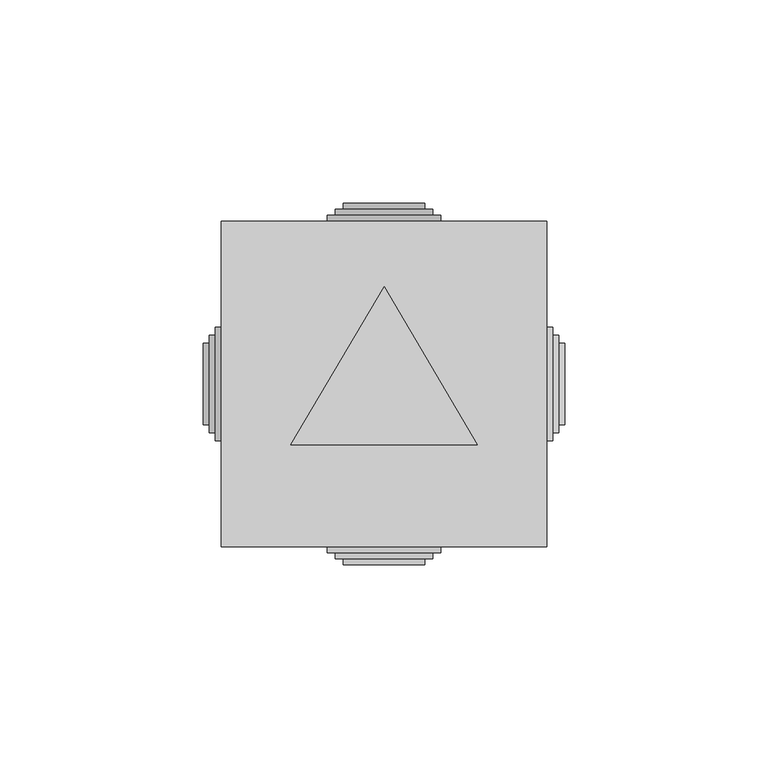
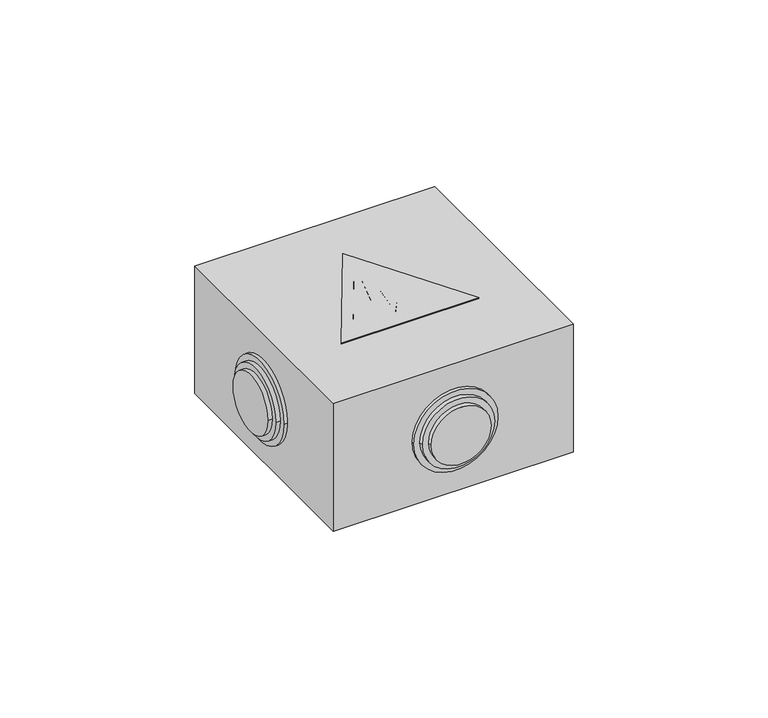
"""IFC4 building model written with IfcOpenShell, lengths in millimetres: proxy geometry, mS_EE_НГ_транзит : КО_IP44_ОУ_КУП_6Вв."""

from ifc_helpers import new_model, si_unit, point, frame, frame_2d, origin, place, context, project, spatial, polyline, circle_curve, trimmed, segment, composite_curve, outline, extrude, source, transform, mapped, element, save


def electrical_equipment_8a72ac11(model_context):
    return source(origin(), model_context, "Body", "SweptSolid", [
        extrude(outline(polyline([(22.9265636, 14.989949), (-0.0285229, -23.8986682), (-22.9836095, 14.989949), (22.9265636, 14.989949)])), frame((0.0, 0.0, -45.2), z_axis=(0.0, 0.0, 1.0), x_axis=(1.0, 0.0, 0.0)), (0.0, 0.0, 1.0), 0.4),
        extrude(outline(polyline([(1.8044962, -10.5250696), (-1.4955038, -10.5250696), (2.2791111, -1.8071408), (-2.9170414, -4.8071408), (-0.0182681, 6.0112285), (-1.4276319, 5.0606005), (1.4242519, 9.2886922), (2.2577631, 4.5616149), (1.2293029, 5.7872861), (0.2337885, -1.7674533), (4.9514137, 0.8475691), (1.8044962, -10.5250696)])), frame((0.0, 0.0, -45.4), z_axis=(0.0, 0.0, 1.0), x_axis=(1.0, 0.0, 0.0)), (0.0, 0.0, 1.0), 0.8),
        extrude(outline(polyline([(-21.2035905, 13.989949), (21.2035905, 13.989949), (0.0, -21.9314278), (-21.2035905, 13.989949)]), holes=[polyline([(0.0, -17.210051), (17.0, 11.589949), (-17.0, 11.589949), (0.0, -17.210051)])]), frame((0.0, 0.0, -45.4), z_axis=(0.0, 0.0, 1.0), x_axis=(1.0, 0.0, 0.0)), (0.0, 0.0, 1.0), 0.8),
        extrude(outline(polyline([(-22.9265636, -14.989949), (0.0285229, 23.8986682), (22.9836095, -14.989949), (-22.9265636, -14.989949)])), frame((0.0, 0.0, -0.2), z_axis=(0.0, 0.0, 1.0), x_axis=(1.0, 0.0, 0.0)), (0.0, 0.0, 1.0), 0.4),
        extrude(outline(polyline([(-1.8044962, 10.5250696), (1.4955038, 10.5250696), (-2.2791111, 1.8071408), (2.9170414, 4.8071408), (0.0182681, -6.0112285), (1.4276319, -5.0606005), (-1.4242519, -9.2886922), (-2.2577631, -4.5616149), (-1.2293029, -5.7872861), (-0.2337885, 1.7674533), (-4.9514137, -0.8475691), (-1.8044962, 10.5250696)])), frame((0.0, 0.0, -0.4), z_axis=(0.0, 0.0, 1.0), x_axis=(1.0, 0.0, 0.0)), (0.0, 0.0, 1.0), 0.8),
        extrude(outline(polyline([(21.2035905, -13.989949), (-21.2035905, -13.989949), (0.0, 21.9314278), (21.2035905, -13.989949)]), holes=[polyline([(0.0, 17.210051), (-17.0, -11.589949), (17.0, -11.589949), (0.0, 17.210051)])]), frame((0.0, 0.0, -0.4), z_axis=(0.0, 0.0, 1.0), x_axis=(1.0, 0.0, 0.0)), (0.0, 0.0, 1.0), 0.8),
        extrude(outline(polyline([(40.0, 40.0), (40.0, -40.0), (-40.0, -40.0), (-40.0, 40.0), (40.0, 40.0)])), frame((0.0, 0.0, -45.0), z_axis=(0.0, 0.0, 1.0), x_axis=(1.0, 0.0, 0.0)), (0.0, 0.0, 1.0), 45.0),
        extrude(outline(composite_curve([segment(trimmed(circle_curve(frame_2d((-22.5, 0.0)), 10.0), [point((-22.5, 10.0))], [point((-22.5, -10.0))], False, "CARTESIAN"), True, "CONTINUOUS"), segment(trimmed(circle_curve(frame_2d((-22.5, 0.0)), 10.0), [point((-22.5, -10.0))], [point((-22.5, 10.0))], False, "CARTESIAN"), True, "CONTINUOUS")], self_intersect=False)), frame((0.0, -44.5, 0.0), z_axis=(0.0, 1.0, 0.0), x_axis=(0.0, 0.0, 1.0)), (0.0, 0.0, 1.0), 1.5),
        extrude(outline(composite_curve([segment(trimmed(circle_curve(frame_2d((-22.5, 0.0)), 12.0), [point((-22.5, 12.0))], [point((-22.5, -12.0))], False, "CARTESIAN"), True, "CONTINUOUS"), segment(trimmed(circle_curve(frame_2d((-22.5, 0.0)), 12.0), [point((-22.5, -12.0))], [point((-22.5, 12.0))], False, "CARTESIAN"), True, "CONTINUOUS")], self_intersect=False)), frame((0.0, -43.0, 0.0), z_axis=(0.0, 1.0, 0.0), x_axis=(0.0, 0.0, 1.0)), (0.0, 0.0, 1.0), 1.5),
        extrude(outline(composite_curve([segment(trimmed(circle_curve(frame_2d((-22.5, 0.0)), 14.0), [point((-22.5, 14.0))], [point((-22.5, -14.0))], False, "CARTESIAN"), True, "CONTINUOUS"), segment(trimmed(circle_curve(frame_2d((-22.5, 0.0)), 14.0), [point((-22.5, -14.0))], [point((-22.5, 14.0))], False, "CARTESIAN"), True, "CONTINUOUS")], self_intersect=False)), frame((0.0, -41.5, 0.0), z_axis=(0.0, 1.0, 0.0), x_axis=(0.0, 0.0, 1.0)), (0.0, 0.0, 1.0), 1.5),
        extrude(outline(composite_curve([segment(trimmed(circle_curve(frame_2d((0.0, -22.5)), 10.0), [point((-10.0, -22.5))], [point((10.0, -22.5))], False, "CARTESIAN"), True, "CONTINUOUS"), segment(trimmed(circle_curve(frame_2d((0.0, -22.5)), 10.0), [point((10.0, -22.5))], [point((-10.0, -22.5))], False, "CARTESIAN"), True, "CONTINUOUS")], self_intersect=False)), frame((-44.5, 0.0, 0.0), z_axis=(1.0, 0.0, 0.0), x_axis=(0.0, 1.0, 0.0)), (0.0, 0.0, 1.0), 1.5),
        extrude(outline(composite_curve([segment(trimmed(circle_curve(frame_2d((0.0, -22.5)), 12.0), [point((-12.0, -22.5))], [point((12.0, -22.5))], False, "CARTESIAN"), True, "CONTINUOUS"), segment(trimmed(circle_curve(frame_2d((0.0, -22.5)), 12.0), [point((12.0, -22.5))], [point((-12.0, -22.5))], False, "CARTESIAN"), True, "CONTINUOUS")], self_intersect=False)), frame((-43.0, 0.0, 0.0), z_axis=(1.0, 0.0, 0.0), x_axis=(0.0, 1.0, 0.0)), (0.0, 0.0, 1.0), 1.5),
        extrude(outline(composite_curve([segment(trimmed(circle_curve(frame_2d((0.0, -22.5)), 14.0), [point((-14.0, -22.5))], [point((14.0, -22.5))], False, "CARTESIAN"), True, "CONTINUOUS"), segment(trimmed(circle_curve(frame_2d((0.0, -22.5)), 14.0), [point((14.0, -22.5))], [point((-14.0, -22.5))], False, "CARTESIAN"), True, "CONTINUOUS")], self_intersect=False)), frame((-41.5, 0.0, 0.0), z_axis=(1.0, 0.0, 0.0), x_axis=(0.0, 1.0, 0.0)), (0.0, 0.0, 1.0), 1.5),
        extrude(outline(composite_curve([segment(trimmed(circle_curve(frame_2d((-25.0, 0.0)), 10.0), [point((-25.0, -10.0))], [point((-25.0, 10.0))], False, "CARTESIAN"), True, "CONTINUOUS"), segment(trimmed(circle_curve(frame_2d((-25.0, 0.0)), 10.0), [point((-25.0, 10.0))], [point((-25.0, -10.0))], False, "CARTESIAN"), True, "CONTINUOUS")], self_intersect=False)), frame((0.0, 43.0, 0.0), z_axis=(0.0, 1.0, 0.0), x_axis=(0.0, 0.0, 1.0)), (0.0, 0.0, 1.0), 1.5),
        extrude(outline(composite_curve([segment(trimmed(circle_curve(frame_2d((-25.0, 0.0)), 12.0), [point((-25.0, -12.0))], [point((-25.0, 12.0))], False, "CARTESIAN"), True, "CONTINUOUS"), segment(trimmed(circle_curve(frame_2d((-25.0, 0.0)), 12.0), [point((-25.0, 12.0))], [point((-25.0, -12.0))], False, "CARTESIAN"), True, "CONTINUOUS")], self_intersect=False)), frame((0.0, 41.5, 0.0), z_axis=(0.0, 1.0, 0.0), x_axis=(0.0, 0.0, 1.0)), (0.0, 0.0, 1.0), 1.5),
        extrude(outline(composite_curve([segment(trimmed(circle_curve(frame_2d((-25.0, 0.0)), 14.0), [point((-25.0, -14.0))], [point((-25.0, 14.0))], False, "CARTESIAN"), True, "CONTINUOUS"), segment(trimmed(circle_curve(frame_2d((-25.0, 0.0)), 14.0), [point((-25.0, 14.0))], [point((-25.0, -14.0))], False, "CARTESIAN"), True, "CONTINUOUS")], self_intersect=False)), frame((0.0, 40.0, 0.0), z_axis=(0.0, 1.0, 0.0), x_axis=(0.0, 0.0, 1.0)), (0.0, 0.0, 1.0), 1.5),
        extrude(outline(composite_curve([segment(trimmed(circle_curve(frame_2d((0.0, -22.5)), 10.0), [point((10.0, -22.5))], [point((-10.0, -22.5))], False, "CARTESIAN"), True, "CONTINUOUS"), segment(trimmed(circle_curve(frame_2d((0.0, -22.5)), 10.0), [point((-10.0, -22.5))], [point((10.0, -22.5))], False, "CARTESIAN"), True, "CONTINUOUS")], self_intersect=False)), frame((43.0, 0.0, 0.0), z_axis=(1.0, 0.0, 0.0), x_axis=(0.0, 1.0, 0.0)), (0.0, 0.0, 1.0), 1.5),
        extrude(outline(composite_curve([segment(trimmed(circle_curve(frame_2d((0.0, -22.5)), 12.0), [point((12.0, -22.5))], [point((-12.0, -22.5))], False, "CARTESIAN"), True, "CONTINUOUS"), segment(trimmed(circle_curve(frame_2d((0.0, -22.5)), 12.0), [point((-12.0, -22.5))], [point((12.0, -22.5))], False, "CARTESIAN"), True, "CONTINUOUS")], self_intersect=False)), frame((41.5, 0.0, 0.0), z_axis=(1.0, 0.0, 0.0), x_axis=(0.0, 1.0, 0.0)), (0.0, 0.0, 1.0), 1.5),
        extrude(outline(composite_curve([segment(trimmed(circle_curve(frame_2d((0.0, -22.5)), 14.0), [point((14.0, -22.5))], [point((-14.0, -22.5))], False, "CARTESIAN"), True, "CONTINUOUS"), segment(trimmed(circle_curve(frame_2d((0.0, -22.5)), 14.0), [point((-14.0, -22.5))], [point((14.0, -22.5))], False, "CARTESIAN"), True, "CONTINUOUS")], self_intersect=False)), frame((40.0, 0.0, 0.0), z_axis=(1.0, 0.0, 0.0), x_axis=(0.0, 1.0, 0.0)), (0.0, 0.0, 1.0), 1.5),
    ])


if __name__ == "__main__":
    model = new_model("IFC4")
    model_context = context("Model", 3, world=origin())
    ifc_project = project(units=[si_unit("LENGTHUNIT", "METRE", prefix="MILLI")], contexts=[model_context])
    site = spatial("IfcSite", under=ifc_project)
    building = spatial("IfcBuilding", under=site)
    placement = place(None, origin())
    electrical_equipment_shape = electrical_equipment_8a72ac11(model_context)
    element("IfcBuildingElementProxy", 1, Name="mS_EE_НГ_транзит : КО_IP44_ОУ_КУП_6Вв", ObjectType="mS_EE_НГ_транзит : КО_IP44_ОУ_КУП_6Вв", at=placement, inside=building, context=model_context, shape_type="MappedRepresentation", body=[
        mapped(electrical_equipment_shape, transform((0.0, 0.0, 0.0), x_axis=(1.0, 0.0, 0.0), y_axis=(0.0, 1.0, 0.0), z_axis=(0.0, 0.0, 1.0))),
    ])
    save(model, "model.ifc")
